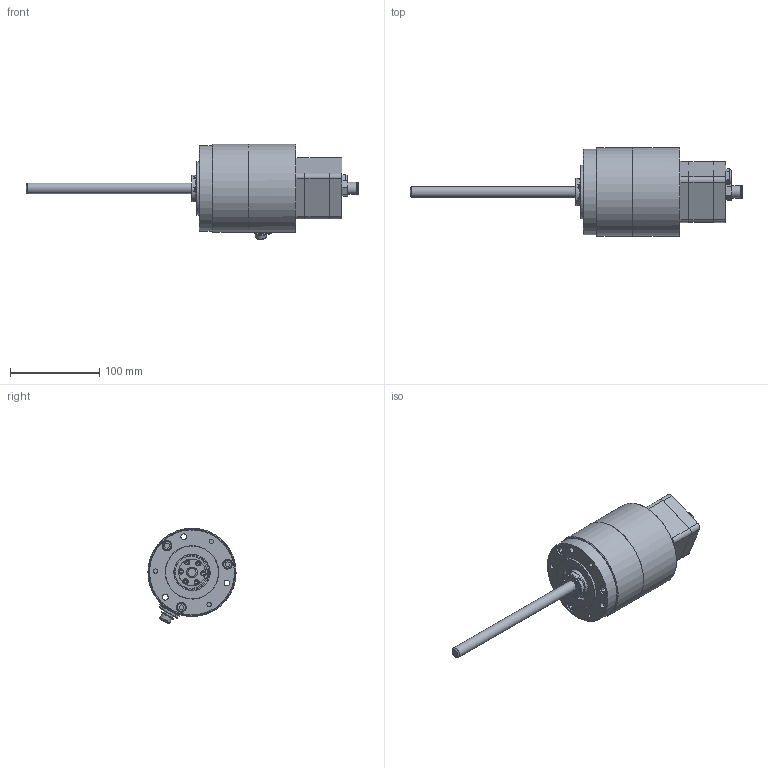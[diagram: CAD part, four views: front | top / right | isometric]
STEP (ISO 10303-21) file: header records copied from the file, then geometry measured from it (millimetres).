
FILE_DESCRIPTION(/* description */ (''),/* implementation_level */ '2;1');
FILE_NAME(/* name */ 'G:\02 CAD Dateien\02 - CAD Schrittmotoren BPS\01 - Standart Produkte\BPS 2532\Verkaufsunterlagen\STEP ab JULI 2017\500-25-315b Schrittmotor BPS-2532-S5-MX-SR4.stp',/* time_stamp */ '2017-12-21T08:23:41+01:00',/* author */ ('RSc'),/* organization */ (''),/* preprocessor_version */ 'ST-DEVELOPER v16.1',/* originating_system */ 'Autodesk Inventor 2016',/* authorisation */ '');
FILE_SCHEMA (('AUTOMOTIVE_DESIGN { 1 0 10303 214 3 1 1 }'));
Length unit declared in the file: millimetre
Products named in the file (3): Bauteil3; 500-25-295 Spindel 12x4; Baugruppe2
Assembly tree (2 placements, depth 2):
  Baugruppe2
    Bauteil3
    500-25-295 Spindel 12x4
Bounding box: 372.7 x 99 x 107.11 mm (x, y, z)
Volume: 991236 mm3; surface area: 103280.3 mm2
Topology: 2 solids, 36 shells, 619 faces, 1396 edges, 911 vertices
Faces by surface type: plane 338, cylinder 187, cone 39, torus 30, bspline 25
Full cylindrical faces by diameter (mm): 1 x10, 2 x2, 2.46 x6, 3 x10, 3.1 x6, 3.3 x6, 4 x1, 4.917 x3, 5.5 x10, 6 x3, 6.5 x6, 8 x9, 8.4 x1, 8.566 x4, 9.4 x1, 10 x3, 10.11 x1, 11 x7, 12 x2, 12.5 x1, 12.6 x1, 13.6 x2, 15 x1, 16 x4, 27.9 x1, 30 x4, 37.343 x1, 37.543 x1, 40 x1, 42 x1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
Entity records: 17629 total; most frequent: CARTESIAN_POINT 3791, DIRECTION 2723, ORIENTED_EDGE 2376, EDGE_CURVE 1186, AXIS2_PLACEMENT_3D 1083, EDGE_LOOP 898, VERTEX_POINT 864, FACE_OUTER_BOUND 618
